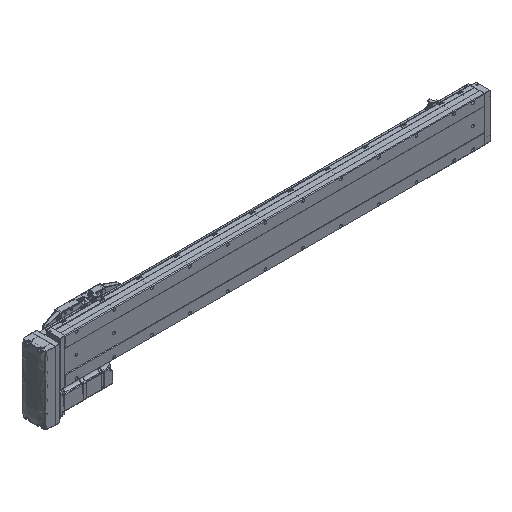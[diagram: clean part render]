
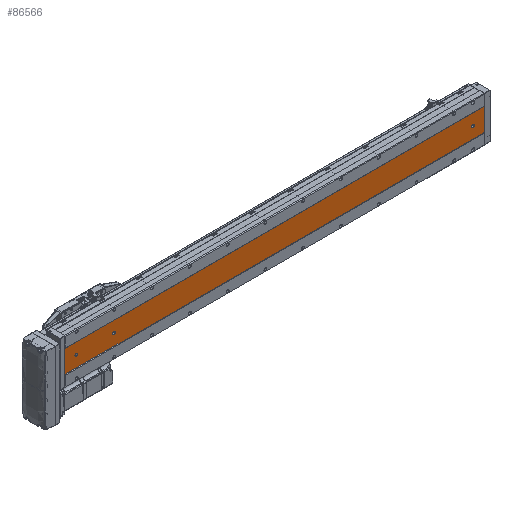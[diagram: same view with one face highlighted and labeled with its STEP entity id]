
A CAD part, isometric view. The second image highlights one B-rep face of the part: STEP entity #86566.
In plain terms, the highlighted planar face has unit normal (0, -1, 0).
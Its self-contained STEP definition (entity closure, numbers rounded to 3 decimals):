
#61 = FACE_OUTER_BOUND ( 'NONE', #40271, .T. ) ;
#1973 = DIRECTION ( 'NONE',  ( 0., 0., 1. ) ) ;
#4313 = ORIENTED_EDGE ( 'NONE', *, *, #7986, .T. ) ;
#5339 = CIRCLE ( 'NONE', #40355, 3.5 ) ;
#5747 = CIRCLE ( 'NONE', #69164, 3.5 ) ;
#5868 = EDGE_LOOP ( 'NONE', ( #10170, #4313 ) ) ;
#6154 = CIRCLE ( 'NONE', #16605, 3.5 ) ;
#7306 = EDGE_CURVE ( 'NONE', #77359, #62434, #42526, .T. ) ;
#7986 = EDGE_CURVE ( 'NONE', #78663, #78173, #43462, .T. ) ;
#8744 = AXIS2_PLACEMENT_3D ( 'NONE', #15903, #48716, #29239 ) ;
#8987 = DIRECTION ( 'NONE',  ( 0., 0., -1. ) ) ;
#9371 = CARTESIAN_POINT ( 'NONE',  ( -43.392, -52.848, 32. ) ) ;
#9804 = CARTESIAN_POINT ( 'NONE',  ( -69.892, -52.848, 1111. ) ) ;
#10170 = ORIENTED_EDGE ( 'NONE', *, *, #28091, .T. ) ;
#12226 = EDGE_CURVE ( 'NONE', #50823, #34011, #41747, .T. ) ;
#13522 = CARTESIAN_POINT ( 'NONE',  ( -69.892, -52.848, 1111. ) ) ;
#13579 = ORIENTED_EDGE ( 'NONE', *, *, #60607, .T. ) ;
#13604 = EDGE_CURVE ( 'NONE', #79838, #66151, #62435, .T. ) ;
#14663 = DIRECTION ( 'NONE',  ( 0., 1., 0. ) ) ;
#15217 = CARTESIAN_POINT ( 'NONE',  ( -39.892, -52.848, 26.5 ) ) ;
#15903 = CARTESIAN_POINT ( 'NONE',  ( -69.892, -52.848, 1111. ) ) ;
#16301 = CIRCLE ( 'NONE', #23418, 3.5 ) ;
#16605 = AXIS2_PLACEMENT_3D ( 'NONE', #87395, #46964, #20077 ) ;
#16723 = ORIENTED_EDGE ( 'NONE', *, *, #19748, .T. ) ;
#18339 = LINE ( 'NONE', #9804, #66867 ) ;
#19582 = ORIENTED_EDGE ( 'NONE', *, *, #29751, .T. ) ;
#19748 = EDGE_CURVE ( 'NONE', #66151, #79838, #5339, .T. ) ;
#20049 = CARTESIAN_POINT ( 'NONE',  ( -9.892, -52.848, 1111. ) ) ;
#20077 = DIRECTION ( 'NONE',  ( 0., 0., 1. ) ) ;
#20648 = VERTEX_POINT ( 'NONE', #68897 ) ;
#21754 = DIRECTION ( 'NONE',  ( 0., 1., 0. ) ) ;
#22364 = VECTOR ( 'NONE', #66782, 1000. ) ;
#22506 = EDGE_LOOP ( 'NONE', ( #16723, #40016 ) ) ;
#22721 = CARTESIAN_POINT ( 'NONE',  ( -39.892, -52.848, 977.5 ) ) ;
#23117 = CARTESIAN_POINT ( 'NONE',  ( -39.892, -52.848, 1081. ) ) ;
#23371 = CARTESIAN_POINT ( 'NONE',  ( -69.892, -52.848, 0. ) ) ;
#23418 = AXIS2_PLACEMENT_3D ( 'NONE', #68671, #14663, #1973 ) ;
#25347 = EDGE_CURVE ( 'NONE', #20648, #53860, #75671, .T. ) ;
#27244 = CARTESIAN_POINT ( 'NONE',  ( -69.892, -52.848, 0. ) ) ;
#27296 = AXIS2_PLACEMENT_3D ( 'NONE', #72016, #31659, #37862 ) ;
#28091 = EDGE_CURVE ( 'NONE', #78173, #78663, #16301, .T. ) ;
#28218 = ORIENTED_EDGE ( 'NONE', *, *, #77815, .T. ) ;
#28344 = EDGE_LOOP ( 'NONE', ( #71612, #19582, #28218, #29726, #30912 ) ) ;
#29239 = DIRECTION ( 'NONE',  ( 0., 0., 1. ) ) ;
#29726 = ORIENTED_EDGE ( 'NONE', *, *, #12226, .T. ) ;
#29751 = EDGE_CURVE ( 'NONE', #62434, #43701, #36091, .T. ) ;
#30018 = CARTESIAN_POINT ( 'NONE',  ( -39.892, -52.848, 1081. ) ) ;
#30912 = ORIENTED_EDGE ( 'NONE', *, *, #62318, .T. ) ;
#31359 = VECTOR ( 'NONE', #67568, 1000. ) ;
#31659 = DIRECTION ( 'NONE',  ( 0., 1., 0. ) ) ;
#33040 = CARTESIAN_POINT ( 'NONE',  ( -9.892, -52.848, 1111. ) ) ;
#33641 = CARTESIAN_POINT ( 'NONE',  ( -43.392, -52.848, 30. ) ) ;
#34011 = VERTEX_POINT ( 'NONE', #9371 ) ;
#35457 = PLANE ( 'NONE',  #8744 ) ;
#35650 = DIRECTION ( 'NONE',  ( 0., 0., 1. ) ) ;
#36091 = CIRCLE ( 'NONE', #77814, 3.5 ) ;
#36548 = CARTESIAN_POINT ( 'NONE',  ( -39.892, -52.848, 1077.5 ) ) ;
#37301 = DIRECTION ( 'NONE',  ( 0., 0., 1. ) ) ;
#37862 = DIRECTION ( 'NONE',  ( 0., 0., 1. ) ) ;
#40016 = ORIENTED_EDGE ( 'NONE', *, *, #13604, .T. ) ;
#40271 = EDGE_LOOP ( 'NONE', ( #13579, #73440, #65361, #58993 ) ) ;
#40355 = AXIS2_PLACEMENT_3D ( 'NONE', #23117, #77680, #37301 ) ;
#41747 = LINE ( 'NONE', #58825, #77602 ) ;
#42526 = LINE ( 'NONE', #50602, #76241 ) ;
#42935 = DIRECTION ( 'NONE',  ( 0., 0., -1. ) ) ;
#43317 = DIRECTION ( 'NONE',  ( 0., 1., 0. ) ) ;
#43462 = CIRCLE ( 'NONE', #27296, 3.5 ) ;
#43532 = LINE ( 'NONE', #27244, #22364 ) ;
#43701 = VERTEX_POINT ( 'NONE', #15217 ) ;
#45252 = DIRECTION ( 'NONE',  ( 0., 0., 1. ) ) ;
#46069 = DIRECTION ( 'NONE',  ( 0., 0., -1. ) ) ;
#46601 = FACE_BOUND ( 'NONE', #5868, .T. ) ;
#46964 = DIRECTION ( 'NONE',  ( 0., 1., 0. ) ) ;
#47273 = VECTOR ( 'NONE', #46069, 1000. ) ;
#48236 = CARTESIAN_POINT ( 'NONE',  ( -36.392, -52.848, 32. ) ) ;
#48716 = DIRECTION ( 'NONE',  ( 0., 1., 0. ) ) ;
#50602 = CARTESIAN_POINT ( 'NONE',  ( -36.392, -52.848, 1111. ) ) ;
#50823 = VERTEX_POINT ( 'NONE', #33641 ) ;
#52612 = AXIS2_PLACEMENT_3D ( 'NONE', #30018, #43317, #35650 ) ;
#53860 = VERTEX_POINT ( 'NONE', #33040 ) ;
#56111 = FACE_BOUND ( 'NONE', #28344, .T. ) ;
#58825 = CARTESIAN_POINT ( 'NONE',  ( -43.392, -52.848, 1111. ) ) ;
#58993 = ORIENTED_EDGE ( 'NONE', *, *, #84040, .T. ) ;
#60607 = EDGE_CURVE ( 'NONE', #80471, #83007, #43532, .T. ) ;
#61568 = CARTESIAN_POINT ( 'NONE',  ( -9.892, -52.848, 0. ) ) ;
#62205 = CARTESIAN_POINT ( 'NONE',  ( -39.892, -52.848, 30. ) ) ;
#62318 = EDGE_CURVE ( 'NONE', #34011, #77359, #5747, .T. ) ;
#62434 = VERTEX_POINT ( 'NONE', #66927 ) ;
#62435 = CIRCLE ( 'NONE', #52612, 3.5 ) ;
#63100 = LINE ( 'NONE', #20049, #47273 ) ;
#65361 = ORIENTED_EDGE ( 'NONE', *, *, #25347, .F. ) ;
#66073 = DIRECTION ( 'NONE',  ( 0., 0., 1. ) ) ;
#66151 = VERTEX_POINT ( 'NONE', #36548 ) ;
#66782 = DIRECTION ( 'NONE',  ( 1., 0., 0. ) ) ;
#66867 = VECTOR ( 'NONE', #42935, 1000. ) ;
#66927 = CARTESIAN_POINT ( 'NONE',  ( -36.392, -52.848, 30. ) ) ;
#67568 = DIRECTION ( 'NONE',  ( 1., 0., 0. ) ) ;
#68671 = CARTESIAN_POINT ( 'NONE',  ( -39.892, -52.848, 981. ) ) ;
#68897 = CARTESIAN_POINT ( 'NONE',  ( -69.892, -52.848, 1111. ) ) ;
#69164 = AXIS2_PLACEMENT_3D ( 'NONE', #72844, #72542, #66073 ) ;
#70898 = CARTESIAN_POINT ( 'NONE',  ( -39.892, -52.848, 1084.5 ) ) ;
#71149 = CARTESIAN_POINT ( 'NONE',  ( -39.892, -52.848, 984.5 ) ) ;
#71612 = ORIENTED_EDGE ( 'NONE', *, *, #7306, .T. ) ;
#71897 = FACE_BOUND ( 'NONE', #22506, .T. ) ;
#72016 = CARTESIAN_POINT ( 'NONE',  ( -39.892, -52.848, 981. ) ) ;
#72542 = DIRECTION ( 'NONE',  ( 0., 1., 0. ) ) ;
#72844 = CARTESIAN_POINT ( 'NONE',  ( -39.892, -52.848, 32. ) ) ;
#73440 = ORIENTED_EDGE ( 'NONE', *, *, #78874, .F. ) ;
#75671 = LINE ( 'NONE', #13522, #31359 ) ;
#75749 = DIRECTION ( 'NONE',  ( 0., 0., 1. ) ) ;
#76241 = VECTOR ( 'NONE', #8987, 1000. ) ;
#77359 = VERTEX_POINT ( 'NONE', #48236 ) ;
#77602 = VECTOR ( 'NONE', #45252, 1000. ) ;
#77680 = DIRECTION ( 'NONE',  ( 0., 1., 0. ) ) ;
#77814 = AXIS2_PLACEMENT_3D ( 'NONE', #62205, #21754, #75749 ) ;
#77815 = EDGE_CURVE ( 'NONE', #43701, #50823, #6154, .T. ) ;
#78173 = VERTEX_POINT ( 'NONE', #22721 ) ;
#78663 = VERTEX_POINT ( 'NONE', #71149 ) ;
#78874 = EDGE_CURVE ( 'NONE', #53860, #83007, #63100, .T. ) ;
#79838 = VERTEX_POINT ( 'NONE', #70898 ) ;
#80471 = VERTEX_POINT ( 'NONE', #23371 ) ;
#83007 = VERTEX_POINT ( 'NONE', #61568 ) ;
#84040 = EDGE_CURVE ( 'NONE', #20648, #80471, #18339, .T. ) ;
#86566 = ADVANCED_FACE ( 'NONE', ( #56111, #46601, #71897, #61 ), #35457, .F. ) ;
#87395 = CARTESIAN_POINT ( 'NONE',  ( -39.892, -52.848, 30. ) ) ;
